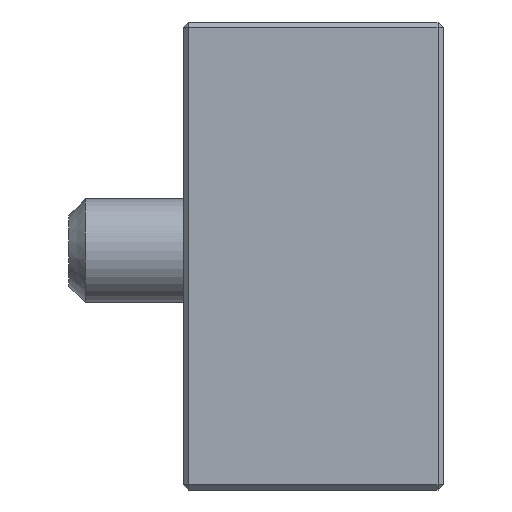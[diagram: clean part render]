
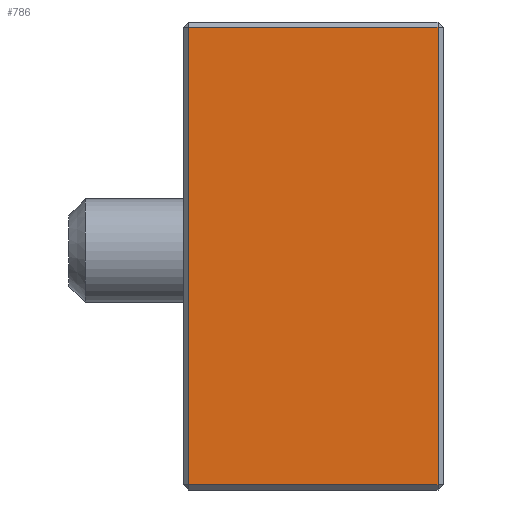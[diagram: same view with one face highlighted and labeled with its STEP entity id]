
A CAD part, left-side view. The second image highlights one B-rep face of the part: STEP entity #786.
In plain terms, the highlighted planar face has unit normal (-1, 0, 0).
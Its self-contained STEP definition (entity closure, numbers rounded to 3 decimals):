
#786=ADVANCED_FACE('',(#1698),#1700,.F.);
#1698=FACE_BOUND('',#1699,.T.);
#1699=EDGE_LOOP('',(#2309,#2310,#2311,#2312));
#1700=PLANE('',#1701);
#1701=AXIS2_PLACEMENT_3D('',#1702,#1703,#1704);
#1702=CARTESIAN_POINT('',(-50.,0.,0.));
#1703=DIRECTION('',(1.,0.,0.));
#1704=DIRECTION('',(0.,1.,0.));
#2309=ORIENTED_EDGE('',*,*,#2628,.F.);
#2310=ORIENTED_EDGE('',*,*,#2638,.F.);
#2311=ORIENTED_EDGE('',*,*,#2590,.F.);
#2312=ORIENTED_EDGE('',*,*,#2639,.F.);
#2590=EDGE_CURVE('',#2922,#2920,#2924,.T.);
#2628=EDGE_CURVE('',#2981,#2979,#2983,.T.);
#2638=EDGE_CURVE('',#2920,#2981,#2995,.T.);
#2639=EDGE_CURVE('',#2979,#2922,#2996,.T.);
#2920=VERTEX_POINT('',#3831);
#2922=VERTEX_POINT('',#3835);
#2924=LINE('',#3839,#3840);
#2979=VERTEX_POINT('',#3971);
#2981=VERTEX_POINT('',#3975);
#2983=LINE('',#3979,#3980);
#2995=LINE('',#4011,#4012);
#2996=LINE('',#4014,#4015);
#3831=CARTESIAN_POINT('',(-50.,12.,22.5));
#3835=CARTESIAN_POINT('',(-50.,12.,-21.5));
#3839=CARTESIAN_POINT('',(-50.,12.,-21.5));
#3840=VECTOR('',#3841,1.);
#3841=DIRECTION('',(0.,0.,1.));
#3971=CARTESIAN_POINT('',(-50.,-12.,-21.5));
#3975=CARTESIAN_POINT('',(-50.,-12.,22.5));
#3979=CARTESIAN_POINT('',(-50.,-12.,22.5));
#3980=VECTOR('',#3981,1.);
#3981=DIRECTION('',(0.,0.,-1.));
#4011=CARTESIAN_POINT('',(-50.,12.,22.5));
#4012=VECTOR('',#4013,1.);
#4013=DIRECTION('',(0.,-1.,0.));
#4014=CARTESIAN_POINT('',(-50.,-12.,-21.5));
#4015=VECTOR('',#4016,1.);
#4016=DIRECTION('',(0.,1.,0.));
